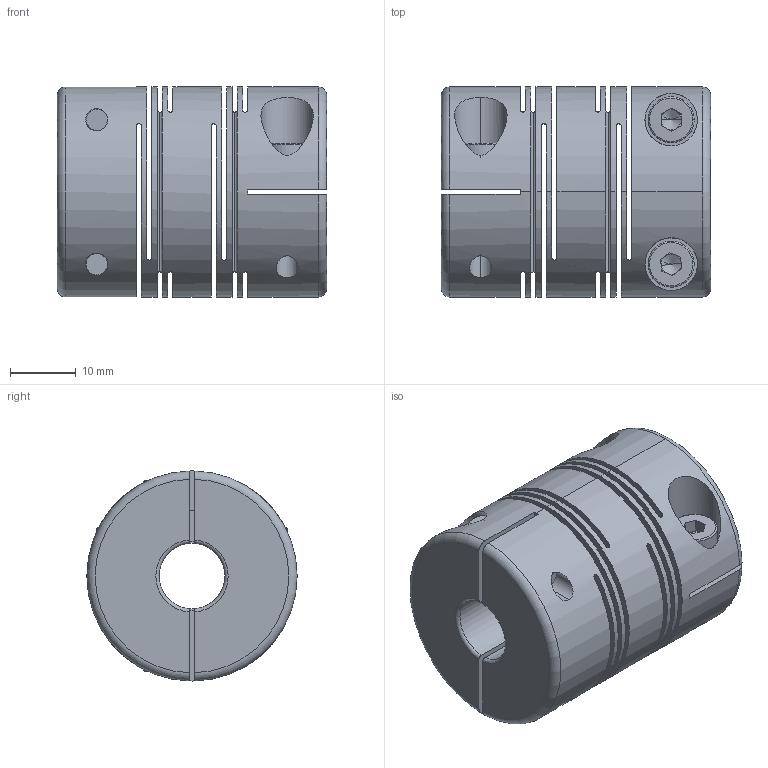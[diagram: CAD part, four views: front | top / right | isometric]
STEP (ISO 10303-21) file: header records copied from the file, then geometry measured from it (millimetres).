
FILE_DESCRIPTION (( 'STEP AP203' ), '1' );
FILE_NAME ('FACML32-10x10.STEP', '2014-01-23T07:58:43', ( '123' ), ( '' ), 'SwSTEP 2.0', 'SolidWorks 2013', '' );
FILE_SCHEMA (( 'CONFIG_CONTROL_DESIGN' ));
Length unit declared in the file: millimetre
Products named in the file (1): FACML32-10x10
Bounding box: 41 x 32 x 32 mm (x, y, z)
Surface area: 18118.6 mm2 (no closed solid volume)
Topology: 0 solids, 9 shells, 148 faces, 450 edges, 300 vertices
Faces by surface type: plane 68, cylinder 52, torus 18, cone 10
Entity records: 5853 total; most frequent: CARTESIAN_POINT 1747, DIRECTION 860, ORIENTED_EDGE 786, EDGE_CURVE 442, AXIS2_PLACEMENT_3D 333, VERTEX_POINT 300, LINE 194, VECTOR 194
